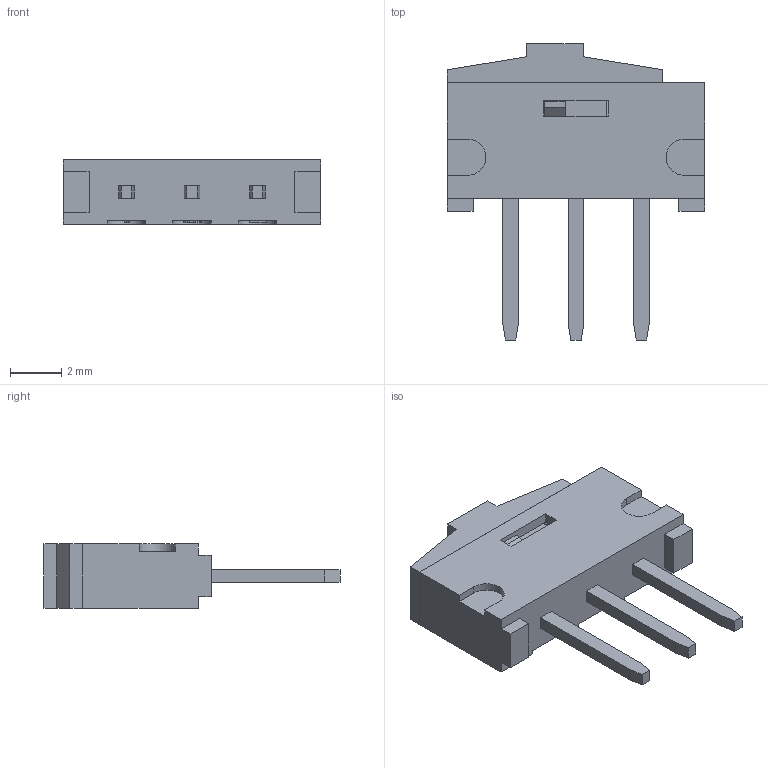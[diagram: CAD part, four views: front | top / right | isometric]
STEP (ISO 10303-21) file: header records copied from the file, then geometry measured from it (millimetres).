
FILE_DESCRIPTION((''),'2;1');
FILE_NAME('ASM_ASM','2010-07-26T',('rd'),(''),'PRO/ENGINEER BY PARAMETRIC TECHNOLOGY CORPORATION, 2006380','PRO/ENGINEER BY PARAMETRIC TECHNOLOGY CORPORATION, 2006380','');
FILE_SCHEMA(('CONFIG_CONTROL_DESIGN'));
Length unit declared in the file: millimetre
Products named in the file (4): 123; 456; 4010010; ASM_ASM
Assembly tree (3 placements, depth 2):
  ASM_ASM
    123
    456
    4010010
Bounding box: 10 x 11.5 x 2.5 mm (x, y, z)
Volume: 120.7 mm3; surface area: 335.3 mm2
Topology: 5 solids, 5 shells, 254 faces, 696 edges, 464 vertices
Faces by surface type: plane 241, cylinder 13
Entity records: 8018 total; most frequent: CARTESIAN_POINT 1421, ORIENTED_EDGE 1392, DIRECTION 1244, EDGE_CURVE 696, VECTOR 670, LINE 670, VERTEX_POINT 464, AXIS2_PLACEMENT_3D 287
